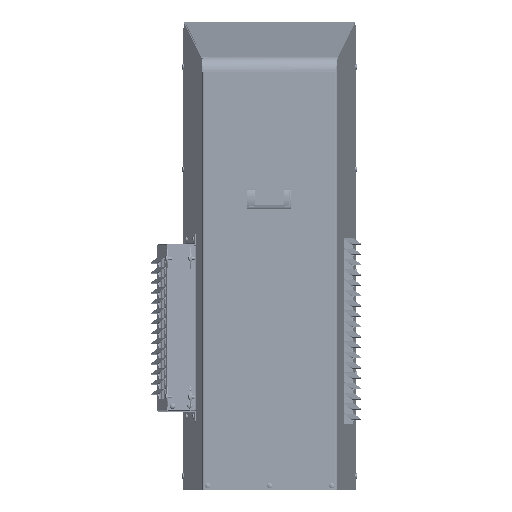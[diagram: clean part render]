
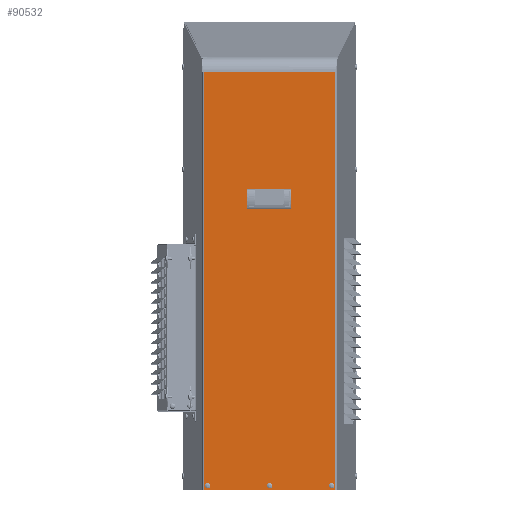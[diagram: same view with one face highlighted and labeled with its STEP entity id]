
A CAD part, front view. The second image highlights one B-rep face of the part: STEP entity #90532.
In plain terms, the highlighted planar face has unit normal (0, -1, 0) as drawn and (0, 1, 0) by its records, which use the part's own axes.
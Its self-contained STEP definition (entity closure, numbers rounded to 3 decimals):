
#2688=CIRCLE('',#102749,2.54);
#2690=CIRCLE('',#102753,2.54);
#2692=CIRCLE('',#102757,2.54);
#2694=CIRCLE('',#102761,2.54);
#2696=CIRCLE('',#102765,2.54);
#2698=CIRCLE('',#102769,2.54);
#12291=ORIENTED_EDGE('',*,*,#35980,.T.);
#12292=ORIENTED_EDGE('',*,*,#35764,.F.);
#12293=ORIENTED_EDGE('',*,*,#35977,.F.);
#12294=ORIENTED_EDGE('',*,*,#35981,.F.);
#12295=ORIENTED_EDGE('',*,*,#35841,.F.);
#12296=ORIENTED_EDGE('',*,*,#35843,.F.);
#12297=ORIENTED_EDGE('',*,*,#35834,.F.);
#12298=ORIENTED_EDGE('',*,*,#35838,.F.);
#12299=ORIENTED_EDGE('',*,*,#35829,.F.);
#12300=ORIENTED_EDGE('',*,*,#35831,.F.);
#12301=ORIENTED_EDGE('',*,*,#35822,.F.);
#12302=ORIENTED_EDGE('',*,*,#35826,.F.);
#12303=ORIENTED_EDGE('',*,*,#35817,.F.);
#12304=ORIENTED_EDGE('',*,*,#35819,.F.);
#12305=ORIENTED_EDGE('',*,*,#35810,.F.);
#12306=ORIENTED_EDGE('',*,*,#35814,.F.);
#12307=ORIENTED_EDGE('',*,*,#35793,.F.);
#12308=ORIENTED_EDGE('',*,*,#35795,.F.);
#12309=ORIENTED_EDGE('',*,*,#35786,.F.);
#12310=ORIENTED_EDGE('',*,*,#35790,.F.);
#35764=EDGE_CURVE('',#47901,#47892,#56816,.T.);
#35786=EDGE_CURVE('',#47921,#47922,#56836,.T.);
#35790=EDGE_CURVE('',#47924,#47921,#56840,.T.);
#35793=EDGE_CURVE('',#47926,#47924,#56843,.T.);
#35795=EDGE_CURVE('',#47922,#47926,#56845,.T.);
#35810=EDGE_CURVE('',#47937,#47938,#56860,.T.);
#35814=EDGE_CURVE('',#47940,#47937,#2688,.T.);
#35817=EDGE_CURVE('',#47942,#47940,#56865,.T.);
#35819=EDGE_CURVE('',#47938,#47942,#2690,.T.);
#35822=EDGE_CURVE('',#47945,#47946,#56868,.T.);
#35826=EDGE_CURVE('',#47948,#47945,#2692,.T.);
#35829=EDGE_CURVE('',#47950,#47948,#56873,.T.);
#35831=EDGE_CURVE('',#47946,#47950,#2694,.T.);
#35834=EDGE_CURVE('',#47953,#47954,#56876,.T.);
#35838=EDGE_CURVE('',#47956,#47953,#2696,.T.);
#35841=EDGE_CURVE('',#47958,#47956,#56881,.T.);
#35843=EDGE_CURVE('',#47954,#47958,#2698,.T.);
#35977=EDGE_CURVE('',#48047,#47901,#56973,.T.);
#35980=EDGE_CURVE('',#48049,#47892,#56975,.T.);
#35981=EDGE_CURVE('',#48049,#48047,#56976,.T.);
#47892=VERTEX_POINT('',#142118);
#47901=VERTEX_POINT('',#142142);
#47921=VERTEX_POINT('',#142221);
#47922=VERTEX_POINT('',#142223);
#47924=VERTEX_POINT('',#142229);
#47926=VERTEX_POINT('',#142235);
#47937=VERTEX_POINT('',#142269);
#47938=VERTEX_POINT('',#142271);
#47940=VERTEX_POINT('',#142277);
#47942=VERTEX_POINT('',#142283);
#47945=VERTEX_POINT('',#142293);
#47946=VERTEX_POINT('',#142295);
#47948=VERTEX_POINT('',#142301);
#47950=VERTEX_POINT('',#142307);
#47953=VERTEX_POINT('',#142317);
#47954=VERTEX_POINT('',#142319);
#47956=VERTEX_POINT('',#142325);
#47958=VERTEX_POINT('',#142331);
#48047=VERTEX_POINT('',#142603);
#48049=VERTEX_POINT('',#142609);
#56816=LINE('',#142185,#65799);
#56836=LINE('',#142222,#65819);
#56840=LINE('',#142230,#65823);
#56843=LINE('',#142236,#65826);
#56845=LINE('',#142239,#65828);
#56860=LINE('',#142270,#65843);
#56865=LINE('',#142284,#65848);
#56868=LINE('',#142294,#65851);
#56873=LINE('',#142308,#65856);
#56876=LINE('',#142318,#65859);
#56881=LINE('',#142332,#65864);
#56973=LINE('',#142602,#65956);
#56975=LINE('',#142608,#65958);
#56976=LINE('',#142610,#65959);
#65799=VECTOR('',#114688,1000.);
#65819=VECTOR('',#114724,1000.);
#65823=VECTOR('',#114730,1000.);
#65826=VECTOR('',#114735,1000.);
#65828=VECTOR('',#114739,1000.);
#65843=VECTOR('',#114764,1000.);
#65848=VECTOR('',#114777,1000.);
#65851=VECTOR('',#114788,1000.);
#65856=VECTOR('',#114801,1000.);
#65859=VECTOR('',#114812,1000.);
#65864=VECTOR('',#114825,1000.);
#65956=VECTOR('',#115097,1000.);
#65958=VECTOR('',#115103,1000.);
#65959=VECTOR('',#115104,1000.);
#74103=EDGE_LOOP('',(#12291,#12292,#12293,#12294));
#74104=EDGE_LOOP('',(#12295,#12296,#12297,#12298));
#74105=EDGE_LOOP('',(#12299,#12300,#12301,#12302));
#74106=EDGE_LOOP('',(#12303,#12304,#12305,#12306));
#74107=EDGE_LOOP('',(#12307,#12308,#12309,#12310));
#80943=FACE_BOUND('',#74103,.T.);
#80944=FACE_BOUND('',#74104,.T.);
#80945=FACE_BOUND('',#74105,.T.);
#80946=FACE_BOUND('',#74106,.T.);
#80947=FACE_BOUND('',#74107,.T.);
#87077=PLANE('',#102858);
#90532=ADVANCED_FACE('',(#80943,#80944,#80945,#80946,#80947),#87077,.F.);
#102749=AXIS2_PLACEMENT_3D('',#142278,#114771,#114772);
#102753=AXIS2_PLACEMENT_3D('',#142287,#114782,#114783);
#102757=AXIS2_PLACEMENT_3D('',#142302,#114795,#114796);
#102761=AXIS2_PLACEMENT_3D('',#142311,#114806,#114807);
#102765=AXIS2_PLACEMENT_3D('',#142326,#114819,#114820);
#102769=AXIS2_PLACEMENT_3D('',#142335,#114830,#114831);
#102858=AXIS2_PLACEMENT_3D('',#142607,#115101,#115102);
#114688=DIRECTION('',(-1.,0.,0.));
#114724=DIRECTION('',(1.,0.,0.));
#114730=DIRECTION('',(0.,0.,1.));
#114735=DIRECTION('',(-1.,0.,0.));
#114739=DIRECTION('',(0.,0.,-1.));
#114764=DIRECTION('',(0.,0.,1.));
#114771=DIRECTION('',(0.,1.,0.));
#114772=DIRECTION('',(1.,0.,0.));
#114777=DIRECTION('',(0.,0.,-1.));
#114782=DIRECTION('',(0.,1.,0.));
#114783=DIRECTION('',(-1.,0.,0.));
#114788=DIRECTION('',(0.,0.,1.));
#114795=DIRECTION('',(0.,1.,0.));
#114796=DIRECTION('',(1.,0.,0.));
#114801=DIRECTION('',(0.,0.,-1.));
#114806=DIRECTION('',(0.,1.,0.));
#114807=DIRECTION('',(-1.,0.,0.));
#114812=DIRECTION('',(0.,0.,1.));
#114819=DIRECTION('',(0.,1.,0.));
#114820=DIRECTION('',(1.,0.,0.));
#114825=DIRECTION('',(0.,0.,-1.));
#114830=DIRECTION('',(0.,1.,0.));
#114831=DIRECTION('',(-1.,0.,0.));
#115097=DIRECTION('',(0.,0.,1.));
#115101=DIRECTION('',(0.,-1.,0.));
#115102=DIRECTION('',(0.,0.,-1.));
#115103=DIRECTION('',(0.,0.,1.));
#115104=DIRECTION('',(1.,0.,0.));
#142118=CARTESIAN_POINT('',(-114.108,381.559,726.295));
#142142=CARTESIAN_POINT('',(114.108,381.559,726.295));
#142185=CARTESIAN_POINT('',(-116.808,381.559,726.295));
#142221=CARTESIAN_POINT('',(-35.509,381.559,519.989));
#142222=CARTESIAN_POINT('',(-35.509,381.559,519.989));
#142223=CARTESIAN_POINT('',(35.484,381.559,519.989));
#142229=CARTESIAN_POINT('',(-35.509,381.559,490.22));
#142230=CARTESIAN_POINT('',(-35.509,381.559,490.22));
#142235=CARTESIAN_POINT('',(35.484,381.559,490.22));
#142236=CARTESIAN_POINT('',(35.484,381.559,490.22));
#142239=CARTESIAN_POINT('',(35.484,381.559,519.989));
#142269=CARTESIAN_POINT('',(-110.497,381.559,6.096));
#142270=CARTESIAN_POINT('',(-110.497,381.559,6.096));
#142271=CARTESIAN_POINT('',(-110.497,381.559,8.636));
#142277=CARTESIAN_POINT('',(-105.417,381.559,6.096));
#142278=CARTESIAN_POINT('',(-107.957,381.559,6.096));
#142283=CARTESIAN_POINT('',(-105.417,381.559,8.636));
#142284=CARTESIAN_POINT('',(-105.417,381.559,8.636));
#142287=CARTESIAN_POINT('',(-107.957,381.559,8.636));
#142293=CARTESIAN_POINT('',(-2.547,381.559,6.096));
#142294=CARTESIAN_POINT('',(-2.547,381.559,6.096));
#142295=CARTESIAN_POINT('',(-2.547,381.559,8.636));
#142301=CARTESIAN_POINT('',(2.533,381.559,6.096));
#142302=CARTESIAN_POINT('',(-0.007,381.559,6.096));
#142307=CARTESIAN_POINT('',(2.533,381.559,8.636));
#142308=CARTESIAN_POINT('',(2.533,381.559,8.636));
#142311=CARTESIAN_POINT('',(-0.007,381.559,8.636));
#142317=CARTESIAN_POINT('',(105.403,381.559,6.096));
#142318=CARTESIAN_POINT('',(105.403,381.559,6.096));
#142319=CARTESIAN_POINT('',(105.403,381.559,8.636));
#142325=CARTESIAN_POINT('',(110.483,381.559,6.096));
#142326=CARTESIAN_POINT('',(107.943,381.559,6.096));
#142331=CARTESIAN_POINT('',(110.483,381.559,8.636));
#142332=CARTESIAN_POINT('',(110.483,381.559,8.636));
#142335=CARTESIAN_POINT('',(107.943,381.559,8.636));
#142602=CARTESIAN_POINT('',(114.108,381.559,0.));
#142603=CARTESIAN_POINT('',(114.108,381.559,0.));
#142607=CARTESIAN_POINT('',(-116.808,381.559,0.));
#142608=CARTESIAN_POINT('',(-114.108,381.559,0.));
#142609=CARTESIAN_POINT('',(-114.108,381.559,0.));
#142610=CARTESIAN_POINT('',(-116.808,381.559,0.));
